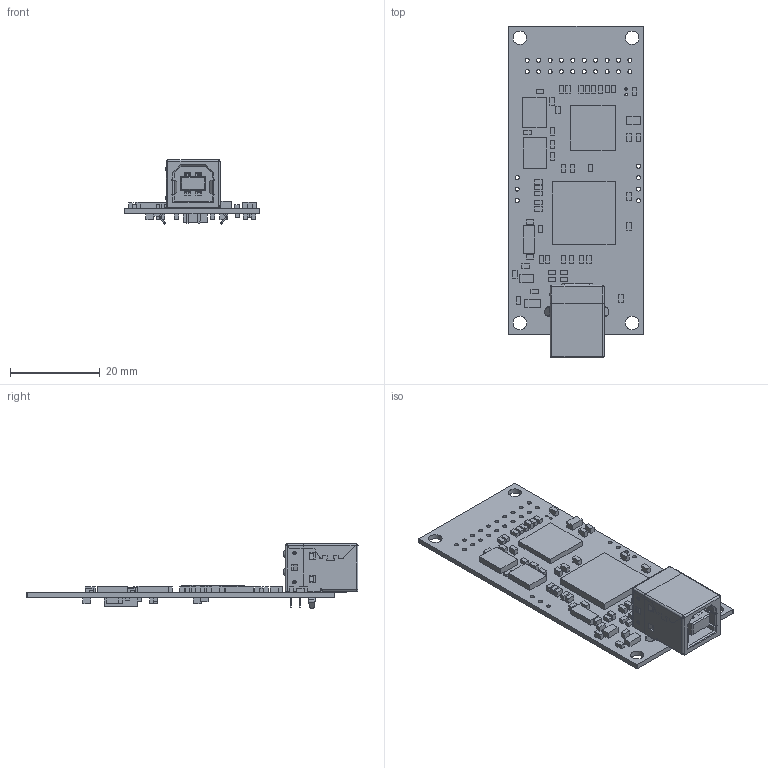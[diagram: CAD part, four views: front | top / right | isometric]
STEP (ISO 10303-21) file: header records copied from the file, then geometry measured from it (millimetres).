
FILE_DESCRIPTION(('Open CASCADE Model'),'2;1');
FILE_NAME('Open CASCADE Shape Model','2020-12-31T10:05:12',('Author'),( 'Open CASCADE'),'Open CASCADE STEP processor 6.8','Open CASCADE 6.8' ,'Unknown');
FILE_SCHEMA(('AUTOMOTIVE_DESIGN { 1 0 10303 214 1 1 1 1 }'));
Length unit declared in the file: millimetre
Products named in the file (102): PCB; Board; Open CASCADE STEP translator 6.8 1.1.1; U7; 6406006544; Extruded; R20; 6406005664; R19; R14; L4; 6406005824; C34; 6406006384; C33; 6406006064; C32; C31; R1; C27; 6405001360; C16; C1; C2; C3; C4; C5; C8; C9; C10; C12; C13; C14; C15; C17; C19; C20; C21; C22; C23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
Assembly tree (156 placements, depth 4):
  PCB
    Board
      Open CASCADE STEP translator 6.8 1.1.1
    U7
      6406006544
        Extruded
    R20
      6406005664
        Extruded
    R19
      6406005664
        Extruded
    R14
      6406005664
        Extruded
    L4
      6406005824
        Extruded
    C34
      6406006384
        Extruded
    C33
      6406006064
        Extruded
    C32
      6406006064
        Extruded
    C31
      6406006384
        Extruded
    R1
      6406005664
        Extruded
    C27
      6405001360
        Extruded
    C16
      6406006064
        Extruded
    C1
      6406006064
        Extruded
    C2
      6406006064
        Extruded
    C3
      6406006384
        Extruded
    C4
      6406006064
        Extruded
    C5
      6406006384
        Extruded
    C8
      6406006064
        Extruded
    C9
      6406006064
        Extruded
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Bounding box: 30.25 x 73.88 x 14.35 mm (x, y, z)
Volume: 4302.6 mm3; surface area: 9741.5 mm2
Topology: 74 solids, 74 shells, 1181 faces, 2901 edges, 1876 vertices
Faces by surface type: plane 913, cylinder 230, bspline 20, torus 12, sphere 6
Full cylindrical faces by diameter (mm): 0.55 x2, 0.9 x27, 0.914 x4, 2.311 x2, 3 x4
Entity records: 26559 total; most frequent: CARTESIAN_POINT 4849, DIRECTION 4257, ORIENTED_EDGE 4054, EDGE_CURVE 2027, LINE 1525, VECTOR 1525, AXIS2_PLACEMENT_3D 1366, VERTEX_POINT 1304
